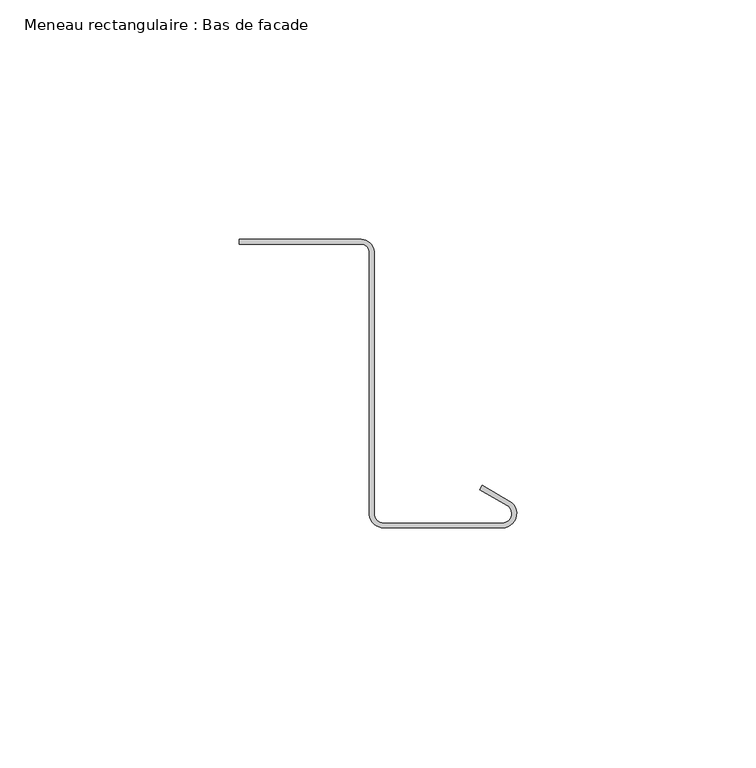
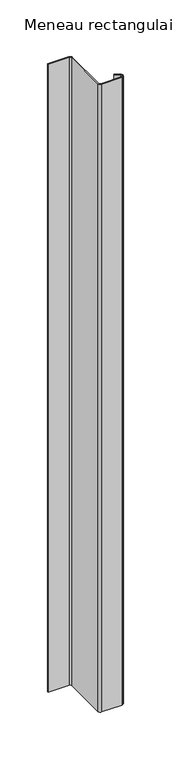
"""IFC4 building model written with IfcOpenShell, lengths in millimetres: member geometry, Meneau rectangulaire : Bas de facade."""

from ifc_helpers import new_model, si_unit, point, frame, frame_2d, origin, place, context, project, spatial, polyline, circle_curve, trimmed, segment, composite_curve, outline, extrude, source, transform, mapped, element, save


def meneau_rectangulaire_bas_de_facade_054009f9(model_context):
    return source(origin(), model_context, "Body", "SweptSolid", [
        extrude(outline(composite_curve([segment(trimmed(circle_curve(frame_2d((-32.4584179, 0.2088923)), 2.75), [point((-32.4584179, 2.9588923))], [point((-29.7143802, 0.3898824))], False, "CARTESIAN"), True, "CONTINUOUS"), segment(polyline([(-29.7143802, 0.3898824), (-29.7143802, -54.5495817)]), True, "CONTINUOUS"), segment(trimmed(circle_curve(frame_2d((-27.735368, -54.2605998)), 2.0), [point((-29.7143802, -54.5495817))], [point((-27.735368, -56.2605998))], True, "CARTESIAN"), True, "CONTINUOUS"), segment(polyline([(-27.735368, -56.2605998), (-3.0, -56.2605998)]), True, "CONTINUOUS"), segment(trimmed(circle_curve(frame_2d((-3.0, -54.2605998)), 2.0), [point((-3.0, -56.2605998))], [point((-2.0, -52.528549))], True, "CARTESIAN"), True, "CONTINUOUS"), segment(polyline([(-2.0, -52.528549), (-7.6638061, -49.258549), (-7.1638061, -48.3925235), (-1.5, -51.6625235)]), True, "CONTINUOUS"), segment(trimmed(circle_curve(frame_2d((-3.0, -54.2605998)), 3.0), [point((-1.5, -51.6625235))], [point((-3.0, -57.2605998))], False, "CARTESIAN"), True, "CONTINUOUS"), segment(polyline([(-3.0, -57.2605998), (-27.735368, -57.2605998)]), True, "CONTINUOUS"), segment(trimmed(circle_curve(frame_2d((-27.735368, -54.2605998)), 3.0), [point((-27.735368, -57.2605998))], [point((-30.7239521, -54.522067))], False, "CARTESIAN"), True, "CONTINUOUS"), segment(polyline([(-30.7239521, -54.522067), (-30.7239521, 0.4415475)]), True, "CONTINUOUS"), segment(trimmed(circle_curve(frame_2d((-32.4584179, 0.2088923)), 1.75), [point((-30.7239521, 0.4415475))], [point((-32.4584179, 1.9588923))], True, "CARTESIAN"), True, "CONTINUOUS"), segment(polyline([(-32.4584179, 1.9588923), (-57.8548383, 1.9588923), (-57.8548383, 2.9588923), (-32.4584179, 2.9588923)]), True, "CONTINUOUS")], self_intersect=False)), frame((0.0, 0.0, -801.0), z_axis=(0.0, 0.0, 1.0), x_axis=(1.0, 0.0, 0.0)), (0.0, 0.0, 1.0), 801.0),
    ])


if __name__ == "__main__":
    model = new_model("IFC4")
    model_context = context("Model", 3, world=origin())
    ifc_project = project(units=[si_unit("LENGTHUNIT", "METRE", prefix="MILLI")], contexts=[model_context])
    site = spatial("IfcSite", under=ifc_project)
    building = spatial("IfcBuilding", under=site)
    placement = place(None, origin())
    meneau_rectangulaire_bas_de_facade_shape = meneau_rectangulaire_bas_de_facade_054009f9(model_context)
    element("IfcMember", 1, ObjectType="Meneau rectangulaire : Bas de facade", at=placement, inside=building, context=model_context, shape_type="MappedRepresentation", body=[
        mapped(meneau_rectangulaire_bas_de_facade_shape, transform((0.0, 0.0, 0.0), x_axis=(1.0, 0.0, 0.0), y_axis=(0.0, 1.0, 0.0), z_axis=(0.0, 0.0, 1.0))),
    ])
    save(model, "model.ifc")
